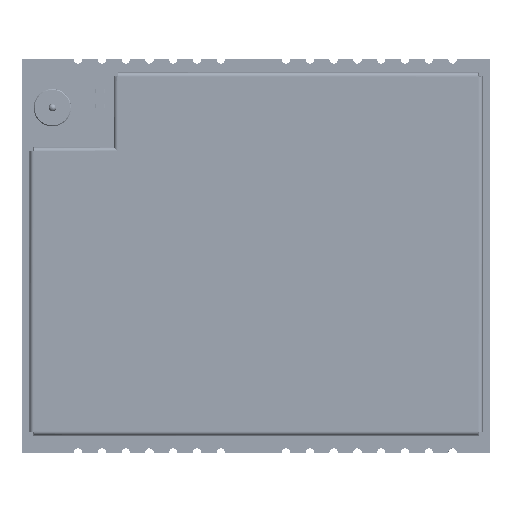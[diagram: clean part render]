
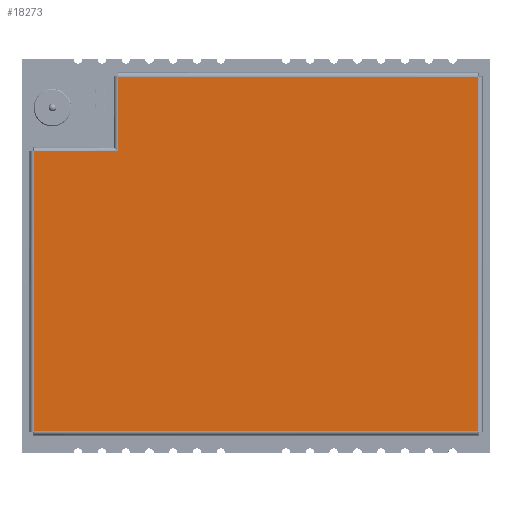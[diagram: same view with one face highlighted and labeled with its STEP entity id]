
A CAD part, top view. The second image highlights one B-rep face of the part: STEP entity #18273.
In plain terms, the highlighted planar face has unit normal (0, 0, 1) as drawn and (0, 1, 0) by its records, which use the part's own axes.
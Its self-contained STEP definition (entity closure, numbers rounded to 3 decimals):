
#18273 = ADVANCED_FACE('',(#18274),#18324,.T.);
#18274 = FACE_BOUND('',#18275,.T.);
#18275 = EDGE_LOOP('',(#18276,#18286,#18294,#18302,#18310,#18318));
#18276 = ORIENTED_EDGE('',*,*,#18277,.F.);
#18277 = EDGE_CURVE('',#18278,#18280,#18282,.T.);
#18278 = VERTEX_POINT('',#18279);
#18279 = CARTESIAN_POINT('',(-9.38,0.,11.78));
#18280 = VERTEX_POINT('',#18281);
#18281 = CARTESIAN_POINT('',(-9.38,0.,-11.98));
#18282 = LINE('',#18283,#18284);
#18283 = CARTESIAN_POINT('',(-9.38,0.,133.));
#18284 = VECTOR('',#18285,1.);
#18285 = DIRECTION('',(0.,0.,-1.));
#18286 = ORIENTED_EDGE('',*,*,#18287,.F.);
#18287 = EDGE_CURVE('',#18288,#18278,#18290,.T.);
#18288 = VERTEX_POINT('',#18289);
#18289 = CARTESIAN_POINT('',(9.58,0.,11.78));
#18290 = LINE('',#18291,#18292);
#18291 = CARTESIAN_POINT('',(130.8,0.,11.78));
#18292 = VECTOR('',#18293,1.);
#18293 = DIRECTION('',(-1.,0.,0.));
#18294 = ORIENTED_EDGE('',*,*,#18295,.F.);
#18295 = EDGE_CURVE('',#18296,#18288,#18298,.T.);
#18296 = VERTEX_POINT('',#18297);
#18297 = CARTESIAN_POINT('',(9.58,0.,-7.48));
#18298 = LINE('',#18299,#18300);
#18299 = CARTESIAN_POINT('',(9.58,0.,-128.7));
#18300 = VECTOR('',#18301,1.);
#18301 = DIRECTION('',(0.,0.,1.));
#18302 = ORIENTED_EDGE('',*,*,#18303,.F.);
#18303 = EDGE_CURVE('',#18304,#18296,#18306,.T.);
#18304 = VERTEX_POINT('',#18305);
#18305 = CARTESIAN_POINT('',(5.58,0.,-7.48));
#18306 = LINE('',#18307,#18308);
#18307 = CARTESIAN_POINT('',(-115.2,0.,-7.48));
#18308 = VECTOR('',#18309,1.);
#18309 = DIRECTION('',(1.,0.,0.));
#18310 = ORIENTED_EDGE('',*,*,#18311,.F.);
#18311 = EDGE_CURVE('',#18312,#18304,#18314,.T.);
#18312 = VERTEX_POINT('',#18313);
#18313 = CARTESIAN_POINT('',(5.58,0.,-11.98));
#18314 = LINE('',#18315,#18316);
#18315 = CARTESIAN_POINT('',(5.58,0.,-133.2));
#18316 = VECTOR('',#18317,1.);
#18317 = DIRECTION('',(0.,0.,1.));
#18318 = ORIENTED_EDGE('',*,*,#18319,.F.);
#18319 = EDGE_CURVE('',#18280,#18312,#18320,.T.);
#18320 = LINE('',#18321,#18322);
#18321 = CARTESIAN_POINT('',(-130.6,0.,-11.98));
#18322 = VECTOR('',#18323,1.);
#18323 = DIRECTION('',(1.,0.,0.));
#18324 = PLANE('',#18325);
#18325 = AXIS2_PLACEMENT_3D('',#18326,#18327,#18328);
#18326 = CARTESIAN_POINT('',(0.,0.,0.));
#18327 = DIRECTION('',(0.,1.,-0.));
#18328 = DIRECTION('',(0.,0.,1.));
